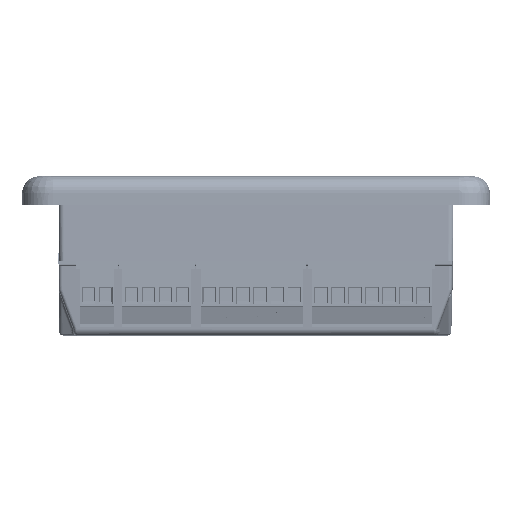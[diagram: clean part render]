
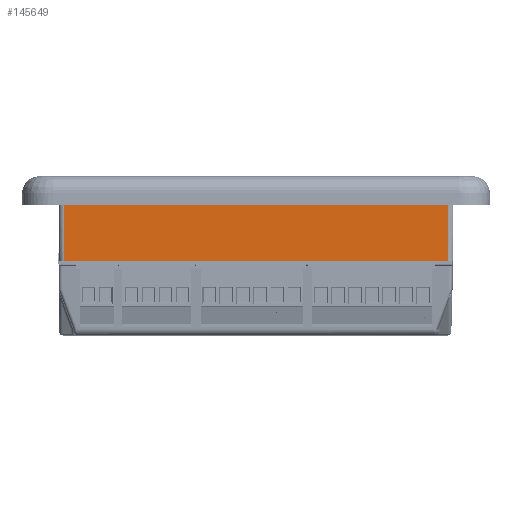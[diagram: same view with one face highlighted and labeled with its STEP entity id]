
A CAD part, front view. The second image highlights one B-rep face of the part: STEP entity #145649.
In plain terms, the highlighted planar face has unit normal (0, -1, -0.011).
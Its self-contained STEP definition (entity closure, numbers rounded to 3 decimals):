
#5360=PLANE('',#209838);
#12325=LINE('',#259737,#29475);
#12334=LINE('',#259764,#29484);
#12336=LINE('',#259767,#29486);
#12700=LINE('',#260802,#29850);
#12701=LINE('',#260810,#29851);
#12715=LINE('',#260862,#29865);
#12716=LINE('',#260864,#29866);
#12717=LINE('',#260866,#29867);
#12718=LINE('',#260868,#29868);
#12719=LINE('',#260870,#29869);
#12720=LINE('',#260871,#29870);
#12721=LINE('',#260872,#29871);
#12722=LINE('',#260874,#29872);
#12723=LINE('',#260876,#29873);
#12724=LINE('',#260878,#29874);
#12725=LINE('',#260880,#29875);
#29475=VECTOR('',#220783,1000.);
#29484=VECTOR('',#220794,1000.);
#29486=VECTOR('',#220798,1000.);
#29850=VECTOR('',#221644,1000.);
#29851=VECTOR('',#221647,1000.);
#29865=VECTOR('',#221669,1000.);
#29866=VECTOR('',#221670,1000.);
#29867=VECTOR('',#221671,1000.);
#29868=VECTOR('',#221672,1000.);
#29869=VECTOR('',#221673,1000.);
#29870=VECTOR('',#221674,1000.);
#29871=VECTOR('',#221675,1000.);
#29872=VECTOR('',#221676,1000.);
#29873=VECTOR('',#221677,1000.);
#29874=VECTOR('',#221678,1000.);
#29875=VECTOR('',#221679,1000.);
#47837=ORIENTED_EDGE('',*,*,#89462,.T.);
#47838=ORIENTED_EDGE('',*,*,#89460,.T.);
#47839=ORIENTED_EDGE('',*,*,#89958,.T.);
#47840=ORIENTED_EDGE('',*,*,#89959,.F.);
#47841=ORIENTED_EDGE('',*,*,#89960,.T.);
#47842=ORIENTED_EDGE('',*,*,#89961,.T.);
#47843=ORIENTED_EDGE('',*,*,#89962,.T.);
#47844=ORIENTED_EDGE('',*,*,#89939,.T.);
#47845=ORIENTED_EDGE('',*,*,#89963,.F.);
#47846=ORIENTED_EDGE('',*,*,#89937,.T.);
#47847=ORIENTED_EDGE('',*,*,#89964,.T.);
#47848=ORIENTED_EDGE('',*,*,#89965,.F.);
#47849=ORIENTED_EDGE('',*,*,#89966,.T.);
#47850=ORIENTED_EDGE('',*,*,#89967,.T.);
#47851=ORIENTED_EDGE('',*,*,#89968,.T.);
#47852=ORIENTED_EDGE('',*,*,#89449,.F.);
#89449=EDGE_CURVE('',#110567,#110568,#12325,.T.);
#89460=EDGE_CURVE('',#110571,#110576,#12334,.T.);
#89462=EDGE_CURVE('',#110567,#110571,#12336,.T.);
#89937=EDGE_CURVE('',#110932,#110934,#12700,.T.);
#89939=EDGE_CURVE('',#110937,#110935,#12701,.T.);
#89958=EDGE_CURVE('',#110576,#110951,#12715,.T.);
#89959=EDGE_CURVE('',#110952,#110951,#12716,.T.);
#89960=EDGE_CURVE('',#110952,#110953,#12717,.T.);
#89961=EDGE_CURVE('',#110953,#110954,#12718,.T.);
#89962=EDGE_CURVE('',#110954,#110937,#12719,.T.);
#89963=EDGE_CURVE('',#110932,#110935,#12720,.T.);
#89964=EDGE_CURVE('',#110934,#110955,#12721,.T.);
#89965=EDGE_CURVE('',#110956,#110955,#12722,.T.);
#89966=EDGE_CURVE('',#110956,#110957,#12723,.T.);
#89967=EDGE_CURVE('',#110957,#110958,#12724,.T.);
#89968=EDGE_CURVE('',#110958,#110568,#12725,.T.);
#110567=VERTEX_POINT('',#259736);
#110568=VERTEX_POINT('',#259738);
#110571=VERTEX_POINT('',#259750);
#110576=VERTEX_POINT('',#259763);
#110932=VERTEX_POINT('',#260794);
#110934=VERTEX_POINT('',#260801);
#110935=VERTEX_POINT('',#260808);
#110937=VERTEX_POINT('',#260811);
#110951=VERTEX_POINT('',#260863);
#110952=VERTEX_POINT('',#260865);
#110953=VERTEX_POINT('',#260867);
#110954=VERTEX_POINT('',#260869);
#110955=VERTEX_POINT('',#260873);
#110956=VERTEX_POINT('',#260875);
#110957=VERTEX_POINT('',#260877);
#110958=VERTEX_POINT('',#260879);
#124731=EDGE_LOOP('',(#47837,#47838,#47839,#47840,#47841,#47842,#47843,
#47844,#47845,#47846,#47847,#47848,#47849,#47850,#47851,#47852));
#134728=FACE_BOUND('',#124731,.T.);
#145649=ADVANCED_FACE('',(#134728),#5360,.T.);
#209838=AXIS2_PLACEMENT_3D('',#260861,#221667,#221668);
#220783=DIRECTION('',(0.009,-0.01,1.));
#220794=DIRECTION('',(-0.009,-0.01,1.));
#220798=DIRECTION('',(-1.,0.,0.));
#221644=DIRECTION('',(0.01,-0.01,1.));
#221647=DIRECTION('',(0.01,0.01,-1.));
#221667=DIRECTION('',(0.,-1.,-0.01));
#221668=DIRECTION('',(0.,0.01,-1.));
#221669=DIRECTION('',(-1.,0.,0.));
#221670=DIRECTION('',(0.009,-0.01,1.));
#221671=DIRECTION('',(-1.,0.,0.));
#221672=DIRECTION('',(-0.009,-0.01,1.));
#221673=DIRECTION('',(-1.,0.,0.));
#221674=DIRECTION('',(-1.,0.,0.));
#221675=DIRECTION('',(-1.,0.,0.));
#221676=DIRECTION('',(0.009,-0.01,1.));
#221677=DIRECTION('',(-1.,0.,0.));
#221678=DIRECTION('',(-0.009,-0.01,1.));
#221679=DIRECTION('',(-1.,0.,0.));
#259736=CARTESIAN_POINT('',(0.5,-45.371,1.7));
#259737=CARTESIAN_POINT('',(0.52,-45.395,3.988));
#259738=CARTESIAN_POINT('',(0.524,-45.4,4.5));
#259750=CARTESIAN_POINT('',(-0.5,-45.371,1.7));
#259763=CARTESIAN_POINT('',(-0.524,-45.4,4.5));
#259764=CARTESIAN_POINT('',(-0.529,-45.405,5.002));
#259767=CARTESIAN_POINT('',(-58.1,-45.371,1.7));
#260794=CARTESIAN_POINT('',(56.38,-45.18,-16.5));
#260801=CARTESIAN_POINT('',(56.6,-45.4,4.5));
#260802=CARTESIAN_POINT('',(56.588,-45.387,3.299));
#260808=CARTESIAN_POINT('',(-56.38,-45.18,-16.5));
#260810=CARTESIAN_POINT('',(-56.6,-45.4,4.516));
#260811=CARTESIAN_POINT('',(-56.6,-45.4,4.5));
#260861=CARTESIAN_POINT('',(-58.1,-45.4,4.5));
#260862=CARTESIAN_POINT('',(-58.1,-45.4,4.5));
#260863=CARTESIAN_POINT('',(-39.376,-45.4,4.5));
#260864=CARTESIAN_POINT('',(-39.377,-45.398,4.337));
#260865=CARTESIAN_POINT('',(-39.4,-45.371,1.7));
#260866=CARTESIAN_POINT('',(-58.1,-45.371,1.7));
#260867=CARTESIAN_POINT('',(-40.4,-45.371,1.7));
#260868=CARTESIAN_POINT('',(-40.426,-45.402,4.654));
#260869=CARTESIAN_POINT('',(-40.424,-45.4,4.5));
#260870=CARTESIAN_POINT('',(-58.1,-45.4,4.5));
#260871=CARTESIAN_POINT('',(-58.1,-45.18,-16.5));
#260872=CARTESIAN_POINT('',(-58.1,-45.4,4.5));
#260873=CARTESIAN_POINT('',(40.424,-45.4,4.5));
#260874=CARTESIAN_POINT('',(40.417,-45.391,3.64));
#260875=CARTESIAN_POINT('',(40.4,-45.371,1.7));
#260876=CARTESIAN_POINT('',(-58.1,-45.371,1.7));
#260877=CARTESIAN_POINT('',(39.4,-45.371,1.7));
#260878=CARTESIAN_POINT('',(39.368,-45.409,5.35));
#260879=CARTESIAN_POINT('',(39.376,-45.4,4.5));
#260880=CARTESIAN_POINT('',(-58.1,-45.4,4.5));
